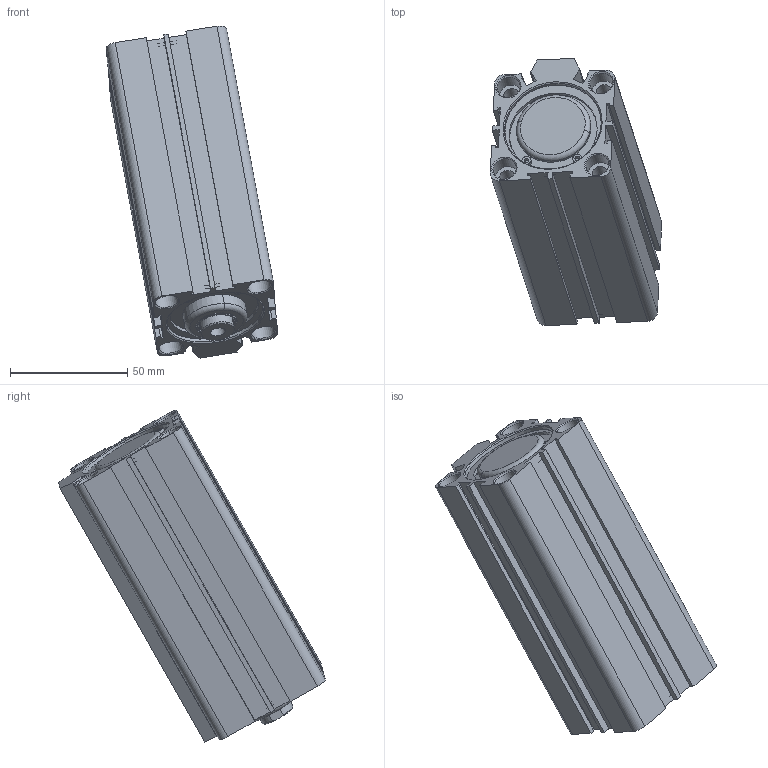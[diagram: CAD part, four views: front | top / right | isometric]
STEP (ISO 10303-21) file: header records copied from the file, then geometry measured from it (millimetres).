
FILE_DESCRIPTION (( 'STEP AP214' ), '1' );
FILE_NAME ('SDA_40_90_WEB.STEP', '2021-01-22T12:17:12', ( 'cagdas' ), ( '' ), 'SwSTEP 2.0', 'SolidWorks 2021', '' );
FILE_SCHEMA (( 'AUTOMOTIVE_DESIGN' ));
Length unit declared in the file: millimetre
Products named in the file (8): SDA_40_90_WEB; SDA40PAPYUZUK; SDA40ONKAPAK; SDA40SEGMAN; 16_MIL_WEB; SDA40ARKAKAPAK; SDA40BOGAZKECESI; SDA_40_BORU_WEB
Assembly tree (8 placements, depth 2):
  SDA_40_90_WEB
    SDA40ARKAKAPAK
    SDA40SEGMAN  x2
    SDA40ONKAPAK
    SDA40PAPYUZUK
    SDA40BOGAZKECESI
    SDA_40_BORU_WEB
    16_MIL_WEB
Bounding box: 73.08 x 113.8 x 141.54 mm (x, y, z)
Volume: 170561.3 mm3; surface area: 81213.5 mm2
Topology: 8 solids, 8 shells, 474 faces, 1175 edges, 758 vertices
Faces by surface type: plane 185, cylinder 128, bspline 85, cone 72, torus 4
Entity records: 19871 total; most frequent: CARTESIAN_POINT 7117, ORIENTED_EDGE 2254, DIRECTION 2025, EDGE_CURVE 1127, VERTEX_POINT 726, AXIS2_PLACEMENT_3D 698, VECTOR 629, LINE 629
